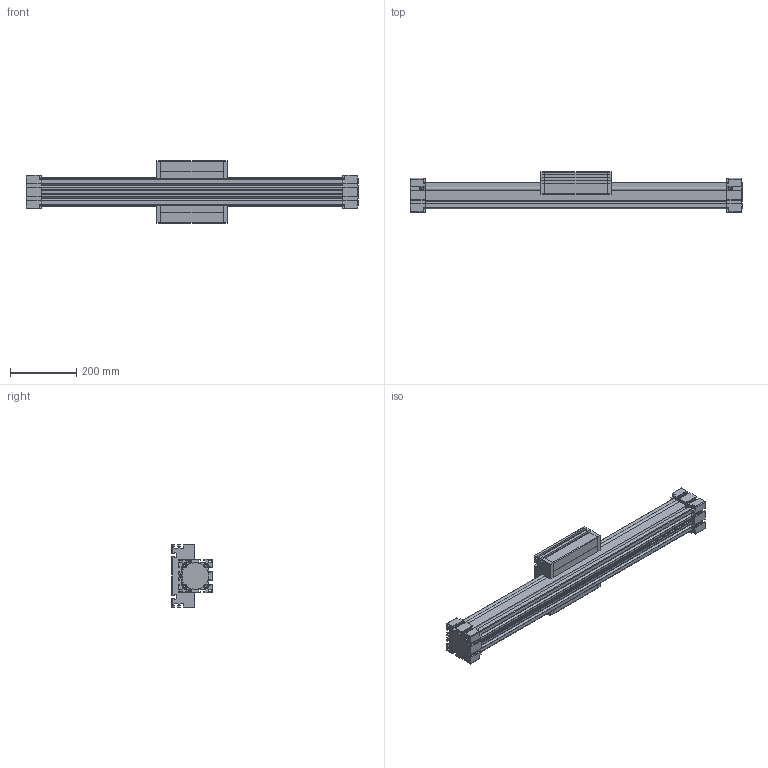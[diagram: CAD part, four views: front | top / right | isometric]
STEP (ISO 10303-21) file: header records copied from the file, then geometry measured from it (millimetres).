
FILE_DESCRIPTION (( 'STEP AP214' ), '1' );
FILE_NAME ('ELR-80-S.STEP', '2016-01-15T07:13:49', ( 'admin' ), ( '' ), 'SwSTEP 2.0', 'SolidWorks 2015', '' );
FILE_SCHEMA (( 'AUTOMOTIVE_DESIGN' ));
Length unit declared in the file: millimetre
Products named in the file (5): Kopie von Bahr-ELR-ELR-80S  0  0 0  0 0 0 0  1305_EL80S Carriage^ELR80S S0_A; Kopie von Bahr-ELR-ELR-80S  0  0 0  0 0 0 0  1305_EL80S Extrusion^ELR80S S0_0; Kopie von Bahr-ELR-ELR-80S  0  0 0  0 0 0 0  1305_ELR End Block 80S (B)^ELR80S S0_ELR-80S End Block 0-0; Kopie von Bahr-ELR-ELR-80S  0  0 0  0 0 0 0  1305_ELR End Block 80S (A)^ELR80S S0_ELR-80S End Block 0-0; ELR-80-S
Assembly tree (4 placements, depth 2):
  ELR-80-S
    Kopie von Bahr-ELR-ELR-80S  0  0 0  0 0 0 0  1305_ELR End Block 80S (A)^ELR80S S0_ELR-80S End Block 0-0
    Kopie von Bahr-ELR-ELR-80S  0  0 0  0 0 0 0  1305_ELR End Block 80S (B)^ELR80S S0_ELR-80S End Block 0-0
    Kopie von Bahr-ELR-ELR-80S  0  0 0  0 0 0 0  1305_EL80S Extrusion^ELR80S S0_0
    Kopie von Bahr-ELR-ELR-80S  0  0 0  0 0 0 0  1305_EL80S Carriage^ELR80S S0_A
Bounding box: 1002 x 122 x 190 mm (x, y, z)
Volume: 7958921.4 mm3; surface area: 731038.9 mm2
Topology: 16 solids, 16 shells, 989 faces, 2715 edges, 1794 vertices
Faces by surface type: plane 772, cylinder 177, cone 32, torus 8
Entity records: 31393 total; most frequent: CARTESIAN_POINT 5505, ORIENTED_EDGE 5430, DIRECTION 5117, EDGE_CURVE 2715, LINE 2305, VECTOR 2305, VERTEX_POINT 1794, AXIS2_PLACEMENT_3D 1406
